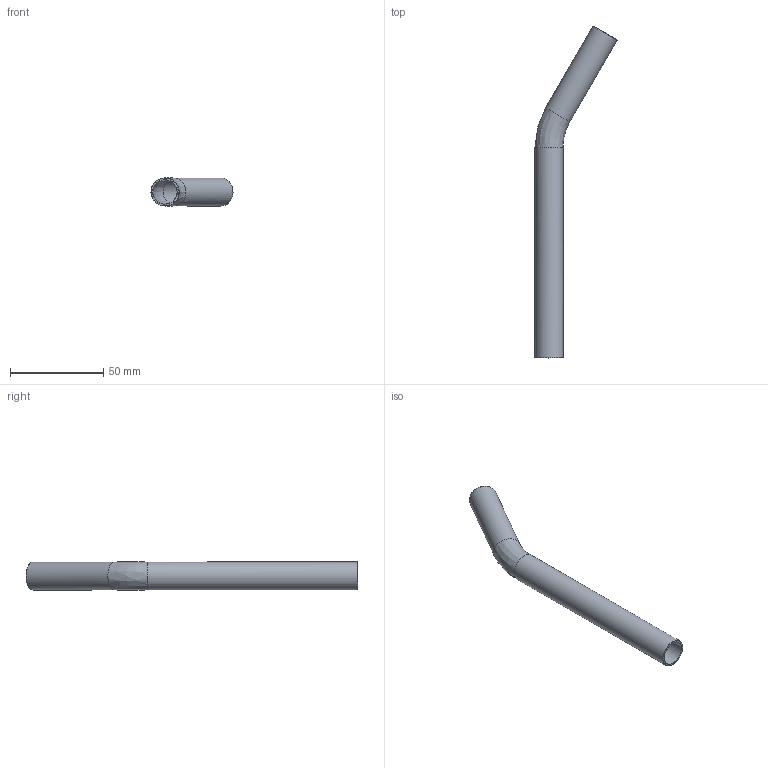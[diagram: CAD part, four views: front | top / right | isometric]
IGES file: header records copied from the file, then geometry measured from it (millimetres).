
Global section: file name: S74AC; native system: Autodesk Inventor 2020; preprocessor: unknown; author: MRZ; date: 20211129.164409; units: millimetre
Bounding box: 43.89 x 177.65 x 15 mm (x, y, z)
Volume: 8007.1 mm3; surface area: 16063.3 mm2
Topology: 1 solids, 1 shells, 12 faces, 26 edges, 16 vertices
Faces by surface type: bspline 12
